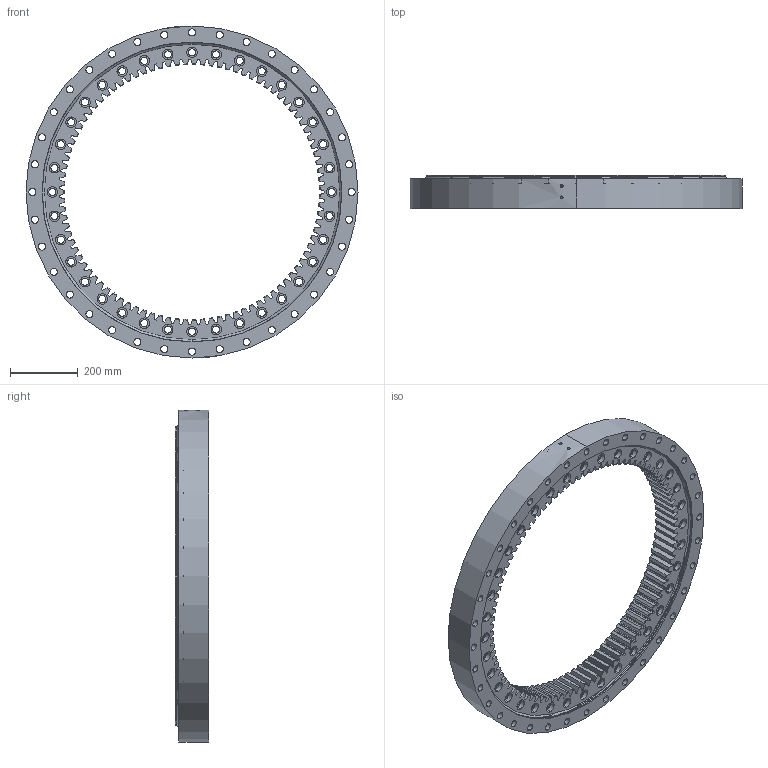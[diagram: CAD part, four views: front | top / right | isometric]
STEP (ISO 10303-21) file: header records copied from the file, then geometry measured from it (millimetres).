
FILE_DESCRIPTION (( 'STEP AP214' ), '1' );
FILE_NAME ('B2222-1-0982BB.STEP', '2022-11-24T07:05:16', ( '' ), ( '' ), 'SwSTEP 2.0', 'SolidWorks 2020', '' );
FILE_SCHEMA (( 'AUTOMOTIVE_DESIGN' ));
Length unit declared in the file: millimetre
Products named in the file (1): B2222-1-0982BB
Bounding box: 982 x 98 x 982 mm (x, y, z)
Volume: 22696128 mm3; surface area: 2388154.2 mm2
Topology: 4 solids, 4 shells, 1086 faces, 2987 edges, 1990 vertices
Faces by surface type: plane 469, cylinder 419, cone 198
Entity records: 36032 total; most frequent: CARTESIAN_POINT 7724, ORIENTED_EDGE 5974, DIRECTION 5789, EDGE_CURVE 2987, AXIS2_PLACEMENT_3D 2111, VERTEX_POINT 1990, LINE 1567, VECTOR 1567
